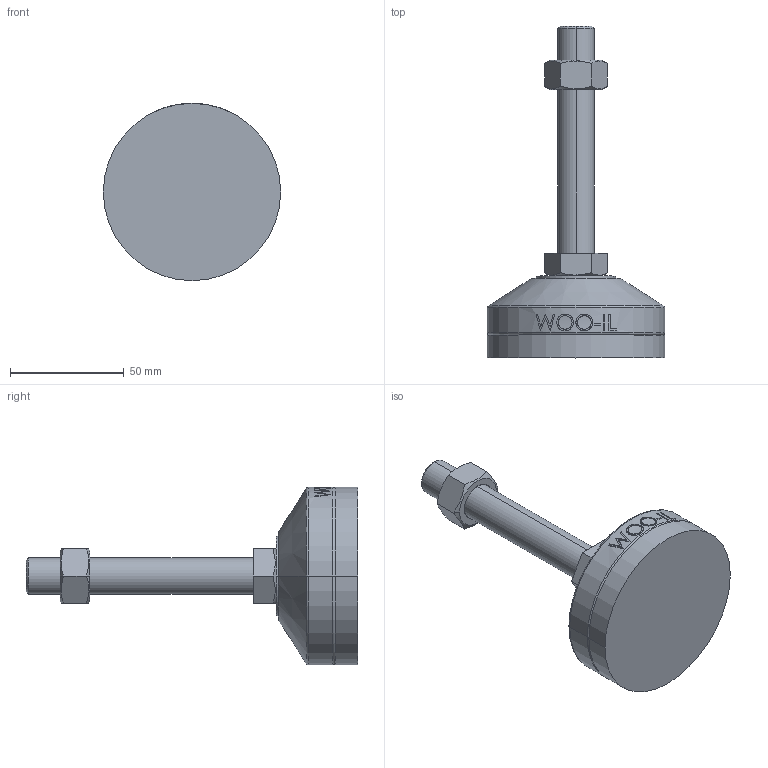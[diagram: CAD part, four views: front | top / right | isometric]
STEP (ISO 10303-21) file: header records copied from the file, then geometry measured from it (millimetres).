
FILE_DESCRIPTION (( 'STEP AP214' ), '1' );
FILE_NAME ('MFR78-M16-100.step', '2021-01-13T05:37:27', ( '' ), ( '' ), 'SwSTEP 2.0', 'SolidWorks 2019', '' );
FILE_SCHEMA (( 'AUTOMOTIVE_DESIGN' ));
Length unit declared in the file: millimetre
Products named in the file (2): MFR78-M16-100
Bounding box: 78 x 146 x 78 mm (x, y, z)
Volume: 172046.8 mm3; surface area: 34299.6 mm2
Topology: 4 solids, 4 shells, 103 faces, 235 edges, 150 vertices
Faces by surface type: plane 49, cylinder 18, bspline 16, cone 14, torus 6
Entity records: 4435 total; most frequent: CARTESIAN_POINT 2162, ORIENTED_EDGE 470, DIRECTION 417, EDGE_CURVE 235, AXIS2_PLACEMENT_3D 159, VERTEX_POINT 150, EDGE_LOOP 115, ADVANCED_FACE 103
